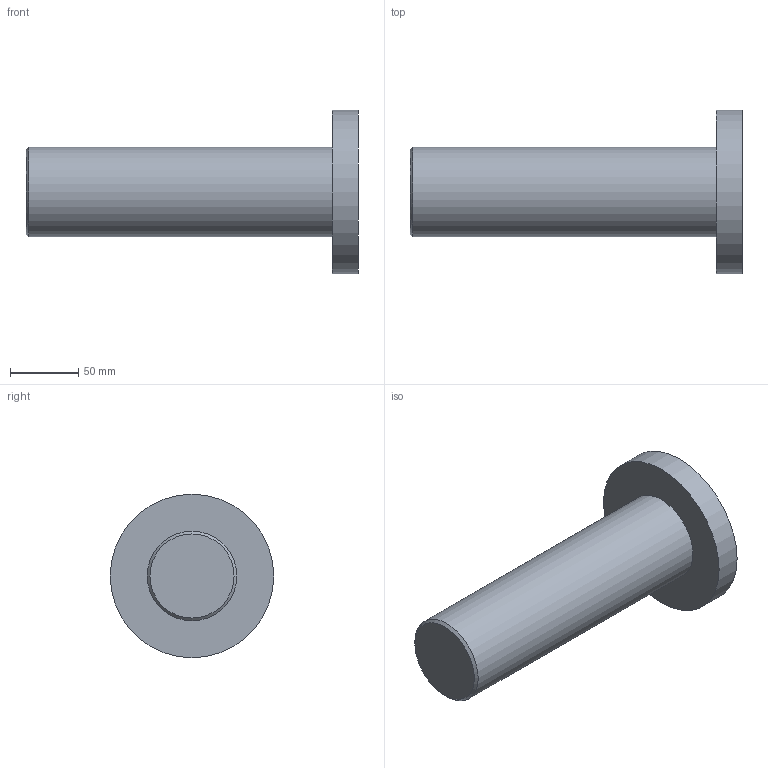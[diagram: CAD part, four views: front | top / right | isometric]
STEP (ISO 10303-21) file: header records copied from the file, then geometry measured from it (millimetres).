
FILE_DESCRIPTION(/* description */ (''),/* implementation_level */ '2;1');
FILE_NAME(/* name */ 'Aluminium Can Punch.stp',/* time_stamp */ '2026-03-16T08:56:59-03:00',/* author */ ('cpEwe'),/* organization */ (''),/* preprocessor_version */ 'ST-DEVELOPER v20.1',/* originating_system */ 'Autodesk Inventor 2026',/* authorisation */ '');
FILE_SCHEMA (('AUTOMOTIVE_DESIGN { 1 0 10303 214 3 1 1 }'));
Length unit declared in the file: inch
Products named in the file (1): Aluminium Can Punch
Bounding box: 243.75 x 120 x 120 mm (x, y, z)
Volume: 975833.3 mm3; surface area: 75923.8 mm2
Topology: 1 solids, 1 shells, 6 faces, 8 edges, 5 vertices
Faces by surface type: plane 3, cylinder 2, cone 1
Full cylindrical faces by diameter (mm): 65.76 x1, 120 x1
Entity records: 168 total; most frequent: DIRECTION 27, CARTESIAN_POINT 20, ORIENTED_EDGE 16, AXIS2_PLACEMENT_3D 12, EDGE_CURVE 8, EDGE_LOOP 7, FACE_OUTER_BOUND 6, ADVANCED_FACE 6
